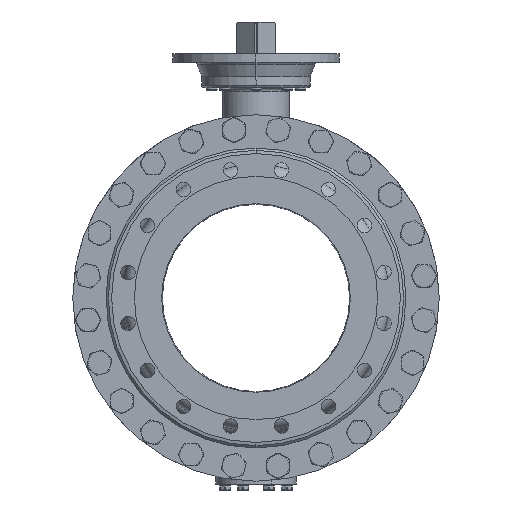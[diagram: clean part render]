
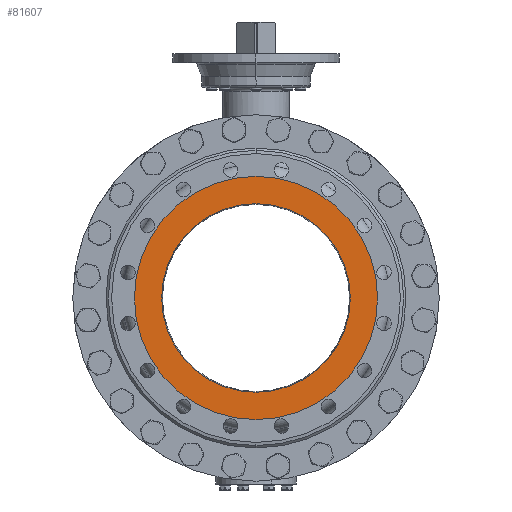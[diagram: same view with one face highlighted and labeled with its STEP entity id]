
A CAD part, left-side view. The second image highlights one B-rep face of the part: STEP entity #81607.
In plain terms, the highlighted planar face has unit normal (-1, 0, 0).
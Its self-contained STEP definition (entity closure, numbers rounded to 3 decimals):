
#11719=CARTESIAN_POINT('',(-343.,0.,0.));
#11720=DIRECTION('',(1.,0.,0.));
#11721=DIRECTION('',(0.,0.,1.));
#11722=AXIS2_PLACEMENT_3D('',#11719,#11720,#11721);
#11724=CARTESIAN_POINT('',(-343.,0.,0.));
#11725=DIRECTION('',(1.,0.,0.));
#11726=DIRECTION('',(0.,0.,-1.));
#11727=AXIS2_PLACEMENT_3D('',#11724,#11725,#11726);
#11729=CARTESIAN_POINT('',(-343.,0.,0.));
#11730=DIRECTION('',(1.,0.,0.));
#11731=DIRECTION('',(0.,0.,1.));
#11732=AXIS2_PLACEMENT_3D('',#11729,#11730,#11731);
#11734=CARTESIAN_POINT('',(-343.,0.,0.));
#11735=DIRECTION('',(-1.,0.,0.));
#11736=DIRECTION('',(0.,0.,1.));
#11737=AXIS2_PLACEMENT_3D('',#11734,#11735,#11736);
#58370=CARTESIAN_POINT('',(-343.,0.,169.8));
#58372=VERTEX_POINT('',#58370);
#58374=CARTESIAN_POINT('',(-343.,0.,-169.8));
#58376=VERTEX_POINT('',#58374);
#58405=CARTESIAN_POINT('',(-343.,0.,219.));
#58406=CARTESIAN_POINT('',(-343.,0.,-219.));
#58407=VERTEX_POINT('',#58405);
#58408=VERTEX_POINT('',#58406);
#81592=CARTESIAN_POINT('',(-343.,0.,0.));
#81593=DIRECTION('',(-1.,0.,0.));
#81594=DIRECTION('',(0.,0.,-1.));
#81595=AXIS2_PLACEMENT_3D('',#81592,#81593,#81594);
#81596=PLANE('',#81595);
#81598=ORIENTED_EDGE('',*,*,#81597,.T.);
#81600=ORIENTED_EDGE('',*,*,#81599,.T.);
#81601=EDGE_LOOP('',(#81598,#81600));
#81602=FACE_OUTER_BOUND('',#81601,.F.);
#81603=ORIENTED_EDGE('',*,*,#81585,.F.);
#81604=ORIENTED_EDGE('',*,*,#81574,.T.);
#81605=EDGE_LOOP('',(#81603,#81604));
#81606=FACE_BOUND('',#81605,.F.);
#81607=ADVANCED_FACE('',(#81602,#81606),#81596,.T.);
#11723=CIRCLE('',#11722,219.);
#11728=CIRCLE('',#11727,219.);
#11733=CIRCLE('',#11732,169.8);
#11738=CIRCLE('',#11737,169.8);
#81574=EDGE_CURVE('',#58372,#58376,#11738,.T.);
#81585=EDGE_CURVE('',#58372,#58376,#11733,.T.);
#81597=EDGE_CURVE('',#58407,#58408,#11723,.T.);
#81599=EDGE_CURVE('',#58408,#58407,#11728,.T.);
